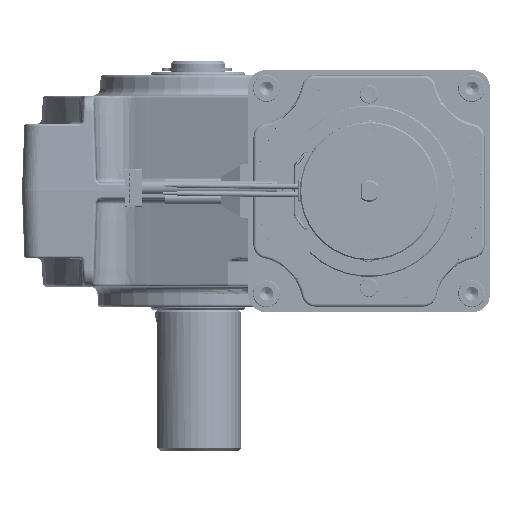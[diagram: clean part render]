
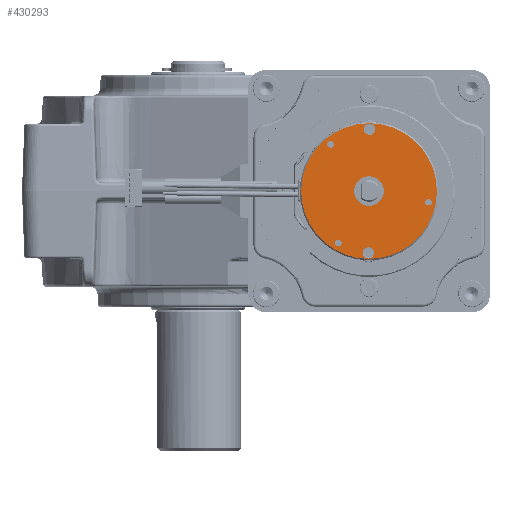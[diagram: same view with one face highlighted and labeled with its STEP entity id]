
A CAD part, left-side view. The second image highlights one B-rep face of the part: STEP entity #430293.
In plain terms, the highlighted planar face has unit normal (-1, 0, 0).
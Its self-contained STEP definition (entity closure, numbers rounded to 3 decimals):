
#1890 = ORIENTED_EDGE ( 'NONE', *, *, #272544, .T. ) ;
#11113 = CIRCLE ( 'NONE', #288973, 25.25 ) ;
#18856 = DIRECTION ( 'NONE',  ( 1., 0., 0. ) ) ;
#28282 = DIRECTION ( 'NONE',  ( 0., -0.508, 0.861 ) ) ;
#34107 = CARTESIAN_POINT ( 'NONE',  ( -356.459, -29.379, 62.209 ) ) ;
#36757 = CARTESIAN_POINT ( 'NONE',  ( -356.459, -15.256, 15.657 ) ) ;
#41267 = ORIENTED_EDGE ( 'NONE', *, *, #114440, .T. ) ;
#43684 = VERTEX_POINT ( 'NONE', #338734 ) ;
#45004 = AXIS2_PLACEMENT_3D ( 'NONE', #207000, #246802, #358388 ) ;
#45041 = DIRECTION ( 'NONE',  ( 0., -0.508, 0.861 ) ) ;
#46730 = VERTEX_POINT ( 'NONE', #36757 ) ;
#55435 = CARTESIAN_POINT ( 'NONE',  ( -356.459, -13.169, 53.717 ) ) ;
#56591 = AXIS2_PLACEMENT_3D ( 'NONE', #318851, #288791, #440238 ) ;
#74618 = AXIS2_PLACEMENT_3D ( 'NONE', #177486, #368673, #28282 ) ;
#74735 = CIRCLE ( 'NONE', #337048, 2.1 ) ;
#74922 = DIRECTION ( 'NONE',  ( 1., 0., 0. ) ) ;
#75365 = FACE_OUTER_BOUND ( 'NONE', #362021, .T. ) ;
#77788 = FACE_BOUND ( 'NONE', #124492, .T. ) ;
#81894 = CARTESIAN_POINT ( 'NONE',  ( -356.459, -13.794, 54.776 ) ) ;
#84776 = EDGE_CURVE ( 'NONE', #482145, #129187, #100705, .T. ) ;
#85264 = CIRCLE ( 'NONE', #236289, 2.1 ) ;
#85351 = ORIENTED_EDGE ( 'NONE', *, *, #185130, .T. ) ;
#85619 = ORIENTED_EDGE ( 'NONE', *, *, #104974, .T. ) ;
#92072 = AXIS2_PLACEMENT_3D ( 'NONE', #99389, #176422, #479528 ) ;
#94857 = DIRECTION ( 'NONE',  ( 1., 0., 0. ) ) ;
#94901 = ORIENTED_EDGE ( 'NONE', *, *, #84776, .T. ) ;
#99389 = CARTESIAN_POINT ( 'NONE',  ( -356.459, -28.091, 37.402 ) ) ;
#100228 = EDGE_CURVE ( 'NONE', #269875, #175536, #424870, .T. ) ;
#100705 = CIRCLE ( 'NONE', #394432, 2.1 ) ;
#101004 = VERTEX_POINT ( 'NONE', #309904 ) ;
#102711 = EDGE_CURVE ( 'NONE', #314881, #200544, #85264, .T. ) ;
#104974 = EDGE_CURVE ( 'NONE', #415499, #424178, #198595, .T. ) ;
#113614 = EDGE_CURVE ( 'NONE', #258254, #101004, #211103, .T. ) ;
#114440 = EDGE_CURVE ( 'NONE', #43684, #311009, #434036, .T. ) ;
#121878 = CARTESIAN_POINT ( 'NONE',  ( -356.459, -50.21, 33.282 ) ) ;
#122022 = CARTESIAN_POINT ( 'NONE',  ( -356.459, -50.21, 33.282 ) ) ;
#124096 = ORIENTED_EDGE ( 'NONE', *, *, #100228, .T. ) ;
#124492 = EDGE_LOOP ( 'NONE', ( #403790, #256358 ) ) ;
#129187 = VERTEX_POINT ( 'NONE', #34107 ) ;
#129916 = CARTESIAN_POINT ( 'NONE',  ( -356.459, -16.654, 18.025 ) ) ;
#132112 = CARTESIAN_POINT ( 'NONE',  ( -356.459, -28.091, 37.402 ) ) ;
#136138 = CARTESIAN_POINT ( 'NONE',  ( -356.459, -28.312, 60.401 ) ) ;
#137366 = ORIENTED_EDGE ( 'NONE', *, *, #302809, .T. ) ;
#141669 = CARTESIAN_POINT ( 'NONE',  ( -356.459, -40.925, 59.146 ) ) ;
#144087 = EDGE_LOOP ( 'NONE', ( #479992, #124096 ) ) ;
#154965 = FACE_BOUND ( 'NONE', #383929, .T. ) ;
#161786 = ORIENTED_EDGE ( 'NONE', *, *, #427142, .T. ) ;
#163309 = CARTESIAN_POINT ( 'NONE',  ( -356.459, -28.091, 37.402 ) ) ;
#175536 = VERTEX_POINT ( 'NONE', #196744 ) ;
#176422 = DIRECTION ( 'NONE',  ( 1., 0., 0. ) ) ;
#177486 = CARTESIAN_POINT ( 'NONE',  ( -356.459, -16.654, 18.025 ) ) ;
#177527 = CARTESIAN_POINT ( 'NONE',  ( -356.459, -14.419, 55.835 ) ) ;
#185130 = EDGE_CURVE ( 'NONE', #129187, #482145, #74735, .T. ) ;
#187381 = FACE_BOUND ( 'NONE', #295256, .T. ) ;
#196393 = DIRECTION ( 'NONE',  ( 1., 0., 0. ) ) ;
#196744 = CARTESIAN_POINT ( 'NONE',  ( -356.459, -17.279, 19.084 ) ) ;
#196813 = ORIENTED_EDGE ( 'NONE', *, *, #113614, .T. ) ;
#198595 = CIRCLE ( 'NONE', #222393, 1.23 ) ;
#200544 = VERTEX_POINT ( 'NONE', #331177 ) ;
#207000 = CARTESIAN_POINT ( 'NONE',  ( -356.459, -30.886, 42.138 ) ) ;
#211103 = CIRCLE ( 'NONE', #92072, 5.5 ) ;
#222393 = AXIS2_PLACEMENT_3D ( 'NONE', #331906, #18856, #364126 ) ;
#225022 = CARTESIAN_POINT ( 'NONE',  ( -356.459, -28.091, 37.402 ) ) ;
#234186 = DIRECTION ( 'NONE',  ( 0., -0.508, 0.861 ) ) ;
#236289 = AXIS2_PLACEMENT_3D ( 'NONE', #417957, #353225, #234186 ) ;
#238040 = CARTESIAN_POINT ( 'NONE',  ( -356.459, -28.937, 16.211 ) ) ;
#246802 = DIRECTION ( 'NONE',  ( 1., 0., 0. ) ) ;
#248205 = AXIS2_PLACEMENT_3D ( 'NONE', #132112, #94857, #304711 ) ;
#250720 = DIRECTION ( 'NONE',  ( 1., 0., 0. ) ) ;
#255741 = CIRCLE ( 'NONE', #350569, 25.25 ) ;
#256358 = ORIENTED_EDGE ( 'NONE', *, *, #473790, .T. ) ;
#258254 = VERTEX_POINT ( 'NONE', #340703 ) ;
#263444 = CIRCLE ( 'NONE', #398041, 1.23 ) ;
#265685 = CARTESIAN_POINT ( 'NONE',  ( -356.459, -49.585, 32.223 ) ) ;
#266877 = PLANE ( 'NONE',  #45004 ) ;
#269643 = DIRECTION ( 'NONE',  ( 1., 0., 0. ) ) ;
#269875 = VERTEX_POINT ( 'NONE', #465390 ) ;
#272544 = EDGE_CURVE ( 'NONE', #46730, #378604, #255741, .T. ) ;
#274329 = EDGE_LOOP ( 'NONE', ( #196813, #161786 ) ) ;
#279437 = DIRECTION ( 'NONE',  ( 0., -0.508, 0.861 ) ) ;
#282236 = ORIENTED_EDGE ( 'NONE', *, *, #355974, .T. ) ;
#288791 = DIRECTION ( 'NONE',  ( 1., 0., 0. ) ) ;
#288973 = AXIS2_PLACEMENT_3D ( 'NONE', #163309, #459054, #391967 ) ;
#294881 = EDGE_LOOP ( 'NONE', ( #41267, #282236 ) ) ;
#295256 = EDGE_LOOP ( 'NONE', ( #85619, #341949 ) ) ;
#302809 = EDGE_CURVE ( 'NONE', #378604, #46730, #11113, .T. ) ;
#304711 = DIRECTION ( 'NONE',  ( 0., -0.508, 0.861 ) ) ;
#305165 = AXIS2_PLACEMENT_3D ( 'NONE', #129916, #353681, #323855 ) ;
#307256 = AXIS2_PLACEMENT_3D ( 'NONE', #122022, #74922, #45041 ) ;
#309904 = CARTESIAN_POINT ( 'NONE',  ( -356.459, -25.295, 32.665 ) ) ;
#311009 = VERTEX_POINT ( 'NONE', #265685 ) ;
#314350 = CARTESIAN_POINT ( 'NONE',  ( -356.459, -28.312, 60.401 ) ) ;
#314881 = VERTEX_POINT ( 'NONE', #238040 ) ;
#318851 = CARTESIAN_POINT ( 'NONE',  ( -356.459, -27.87, 14.403 ) ) ;
#323855 = DIRECTION ( 'NONE',  ( 0., -0.508, 0.861 ) ) ;
#331177 = CARTESIAN_POINT ( 'NONE',  ( -356.459, -26.802, 12.594 ) ) ;
#331906 = CARTESIAN_POINT ( 'NONE',  ( -356.459, -13.794, 54.776 ) ) ;
#337048 = AXIS2_PLACEMENT_3D ( 'NONE', #314350, #269643, #279437 ) ;
#338734 = CARTESIAN_POINT ( 'NONE',  ( -356.459, -50.835, 34.341 ) ) ;
#338943 = FACE_BOUND ( 'NONE', #144087, .T. ) ;
#340703 = CARTESIAN_POINT ( 'NONE',  ( -356.459, -30.886, 42.138 ) ) ;
#341338 = FACE_BOUND ( 'NONE', #294881, .T. ) ;
#341949 = ORIENTED_EDGE ( 'NONE', *, *, #426544, .T. ) ;
#350569 = AXIS2_PLACEMENT_3D ( 'NONE', #225022, #378844, #485861 ) ;
#353225 = DIRECTION ( 'NONE',  ( 1., 0., 0. ) ) ;
#353681 = DIRECTION ( 'NONE',  ( 1., 0., 0. ) ) ;
#355360 = DIRECTION ( 'NONE',  ( 1., 0., 0. ) ) ;
#355974 = EDGE_CURVE ( 'NONE', #311009, #43684, #379915, .T. ) ;
#358388 = DIRECTION ( 'NONE',  ( 0., -0.508, 0.861 ) ) ;
#361000 = EDGE_CURVE ( 'NONE', #175536, #269875, #407802, .T. ) ;
#362021 = EDGE_LOOP ( 'NONE', ( #137366, #1890 ) ) ;
#364126 = DIRECTION ( 'NONE',  ( 0., -0.508, 0.861 ) ) ;
#368673 = DIRECTION ( 'NONE',  ( 1., 0., 0. ) ) ;
#372547 = CARTESIAN_POINT ( 'NONE',  ( -356.459, -27.244, 58.592 ) ) ;
#378604 = VERTEX_POINT ( 'NONE', #141669 ) ;
#378844 = DIRECTION ( 'NONE',  ( -1., 0., 0. ) ) ;
#379915 = CIRCLE ( 'NONE', #435555, 1.23 ) ;
#383929 = EDGE_LOOP ( 'NONE', ( #85351, #94901 ) ) ;
#391967 = DIRECTION ( 'NONE',  ( 0., -0.508, 0.861 ) ) ;
#394432 = AXIS2_PLACEMENT_3D ( 'NONE', #136138, #250720, #409336 ) ;
#397815 = CIRCLE ( 'NONE', #56591, 2.1 ) ;
#398041 = AXIS2_PLACEMENT_3D ( 'NONE', #81894, #196393, #466955 ) ;
#403790 = ORIENTED_EDGE ( 'NONE', *, *, #102711, .T. ) ;
#407802 = CIRCLE ( 'NONE', #74618, 1.229 ) ;
#409336 = DIRECTION ( 'NONE',  ( 0., -0.508, 0.861 ) ) ;
#415499 = VERTEX_POINT ( 'NONE', #177527 ) ;
#415867 = FACE_BOUND ( 'NONE', #274329, .T. ) ;
#417957 = CARTESIAN_POINT ( 'NONE',  ( -356.459, -27.87, 14.403 ) ) ;
#424178 = VERTEX_POINT ( 'NONE', #55435 ) ;
#424870 = CIRCLE ( 'NONE', #305165, 1.229 ) ;
#426544 = EDGE_CURVE ( 'NONE', #424178, #415499, #263444, .T. ) ;
#427142 = EDGE_CURVE ( 'NONE', #101004, #258254, #470338, .T. ) ;
#430293 = ADVANCED_FACE ( 'NONE', ( #77788, #154965, #187381, #341338, #338943, #415867, #75365 ), #266877, .F. ) ;
#434036 = CIRCLE ( 'NONE', #307256, 1.23 ) ;
#435555 = AXIS2_PLACEMENT_3D ( 'NONE', #121878, #355360, #462265 ) ;
#440238 = DIRECTION ( 'NONE',  ( 0., -0.508, 0.861 ) ) ;
#459054 = DIRECTION ( 'NONE',  ( -1., 0., 0. ) ) ;
#462265 = DIRECTION ( 'NONE',  ( 0., -0.508, 0.861 ) ) ;
#465390 = CARTESIAN_POINT ( 'NONE',  ( -356.459, -16.029, 16.966 ) ) ;
#466955 = DIRECTION ( 'NONE',  ( 0., -0.508, 0.861 ) ) ;
#470338 = CIRCLE ( 'NONE', #248205, 5.5 ) ;
#473790 = EDGE_CURVE ( 'NONE', #200544, #314881, #397815, .T. ) ;
#479528 = DIRECTION ( 'NONE',  ( 0., -0.508, 0.861 ) ) ;
#479992 = ORIENTED_EDGE ( 'NONE', *, *, #361000, .T. ) ;
#482145 = VERTEX_POINT ( 'NONE', #372547 ) ;
#485861 = DIRECTION ( 'NONE',  ( 0., -0.508, 0.861 ) ) ;
